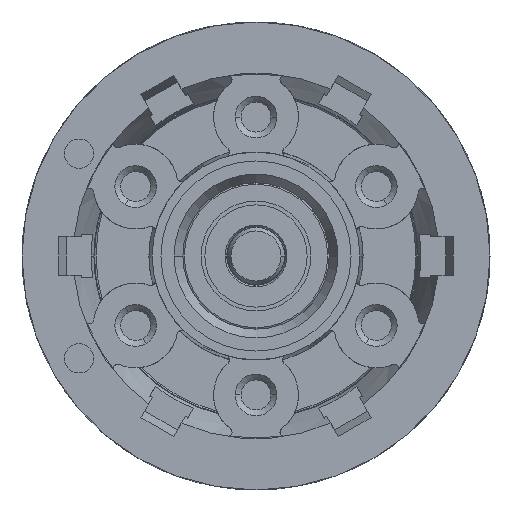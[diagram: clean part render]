
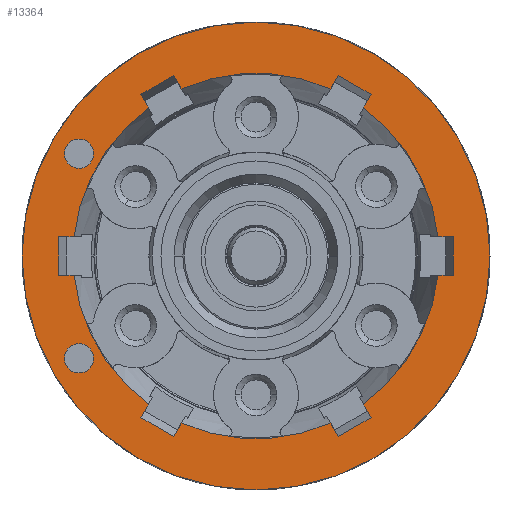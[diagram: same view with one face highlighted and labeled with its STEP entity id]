
A CAD part, left-side view. The second image highlights one B-rep face of the part: STEP entity #13364.
In plain terms, the highlighted planar face has unit normal (-1, 0, 0).
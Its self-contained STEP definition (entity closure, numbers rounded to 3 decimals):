
#1396=CARTESIAN_POINT('',(-1.9,0.,0.));
#1397=DIRECTION('',(-1.,0.,0.));
#1398=DIRECTION('',(0.,1.,0.));
#1399=AXIS2_PLACEMENT_3D('',#1396,#1397,#1398);
#1404=CARTESIAN_POINT('',(-1.9,0.,0.));
#1405=DIRECTION('',(1.,0.,0.));
#1406=DIRECTION('',(0.,1.,0.));
#1407=AXIS2_PLACEMENT_3D('',#1404,#1405,#1406);
#1412=DIRECTION('',(0.,-0.866,0.5));
#1413=VECTOR('',#1412,2.6);
#1414=CARTESIAN_POINT('',(-1.9,7.876,11.041));
#1415=LINE('',#1414,#1413);
#1419=DIRECTION('',(0.,-0.5,-0.866));
#1420=VECTOR('',#1419,1.068);
#1421=CARTESIAN_POINT('',(-1.9,7.876,11.041));
#1422=LINE('',#1421,#1420);
#1426=CARTESIAN_POINT('',(-1.9,0.,0.));
#1427=DIRECTION('',(1.,0.,0.));
#1428=DIRECTION('',(0.,0.995,0.104));
#1429=AXIS2_PLACEMENT_3D('',#1426,#1427,#1428);
#1434=DIRECTION('',(0.,1.,0.));
#1435=VECTOR('',#1434,1.068);
#1436=CARTESIAN_POINT('',(-1.9,12.432,1.3));
#1437=LINE('',#1436,#1435);
#1441=DIRECTION('',(0.,0.,1.));
#1442=VECTOR('',#1441,2.6);
#1443=CARTESIAN_POINT('',(-1.9,13.5,-1.3));
#1444=LINE('',#1443,#1442);
#1448=DIRECTION('',(0.,-1.,0.));
#1449=VECTOR('',#1448,1.068);
#1450=CARTESIAN_POINT('',(-1.9,13.5,-1.3));
#1451=LINE('',#1450,#1449);
#1455=CARTESIAN_POINT('',(-1.9,0.,0.));
#1456=DIRECTION('',(1.,0.,0.));
#1457=DIRECTION('',(0.,0.587,-0.809));
#1458=AXIS2_PLACEMENT_3D('',#1455,#1456,#1457);
#1463=DIRECTION('',(0.,0.5,-0.866));
#1464=VECTOR('',#1463,1.068);
#1465=CARTESIAN_POINT('',(-1.9,7.342,-10.117));
#1466=LINE('',#1465,#1464);
#1470=DIRECTION('',(0.,0.866,0.5));
#1471=VECTOR('',#1470,2.6);
#1472=CARTESIAN_POINT('',(-1.9,5.624,-12.341));
#1473=LINE('',#1472,#1471);
#1477=DIRECTION('',(0.,-0.5,0.866));
#1478=VECTOR('',#1477,1.068);
#1479=CARTESIAN_POINT('',(-1.9,5.624,-12.341));
#1480=LINE('',#1479,#1478);
#1484=CARTESIAN_POINT('',(-1.9,0.,0.));
#1485=DIRECTION('',(1.,0.,0.));
#1486=DIRECTION('',(0.,-0.407,-0.913));
#1487=AXIS2_PLACEMENT_3D('',#1484,#1485,#1486);
#1492=DIRECTION('',(0.,-0.5,-0.866));
#1493=VECTOR('',#1492,1.068);
#1494=CARTESIAN_POINT('',(-1.9,-5.09,-11.417));
#1495=LINE('',#1494,#1493);
#1499=DIRECTION('',(0.,0.866,-0.5));
#1500=VECTOR('',#1499,2.6);
#1501=CARTESIAN_POINT('',(-1.9,-7.876,-11.041));
#1502=LINE('',#1501,#1500);
#1506=DIRECTION('',(0.,0.5,0.866));
#1507=VECTOR('',#1506,1.068);
#1508=CARTESIAN_POINT('',(-1.9,-7.876,-11.041));
#1509=LINE('',#1508,#1507);
#1513=CARTESIAN_POINT('',(-1.9,0.,0.));
#1514=DIRECTION('',(1.,0.,0.));
#1515=DIRECTION('',(0.,-0.995,-0.104));
#1516=AXIS2_PLACEMENT_3D('',#1513,#1514,#1515);
#1521=DIRECTION('',(0.,-1.,0.));
#1522=VECTOR('',#1521,1.068);
#1523=CARTESIAN_POINT('',(-1.9,-12.432,-1.3));
#1524=LINE('',#1523,#1522);
#1528=DIRECTION('',(0.,0.,-1.));
#1529=VECTOR('',#1528,2.6);
#1530=CARTESIAN_POINT('',(-1.9,-13.5,1.3));
#1531=LINE('',#1530,#1529);
#1535=DIRECTION('',(0.,1.,0.));
#1536=VECTOR('',#1535,1.068);
#1537=CARTESIAN_POINT('',(-1.9,-13.5,1.3));
#1538=LINE('',#1537,#1536);
#1542=CARTESIAN_POINT('',(-1.9,0.,0.));
#1543=DIRECTION('',(1.,0.,0.));
#1544=DIRECTION('',(0.,-0.587,0.809));
#1545=AXIS2_PLACEMENT_3D('',#1542,#1543,#1544);
#1550=DIRECTION('',(0.,-0.5,0.866));
#1551=VECTOR('',#1550,1.068);
#1552=CARTESIAN_POINT('',(-1.9,-7.342,10.117));
#1553=LINE('',#1552,#1551);
#1557=DIRECTION('',(0.,-0.866,-0.5));
#1558=VECTOR('',#1557,2.6);
#1559=CARTESIAN_POINT('',(-1.9,-5.624,12.341));
#1560=LINE('',#1559,#1558);
#1564=DIRECTION('',(0.,0.5,-0.866));
#1565=VECTOR('',#1564,1.068);
#1566=CARTESIAN_POINT('',(-1.9,-5.624,12.341));
#1567=LINE('',#1566,#1565);
#1571=CARTESIAN_POINT('',(-1.9,0.,0.));
#1572=DIRECTION('',(1.,0.,0.));
#1573=DIRECTION('',(0.,0.407,0.913));
#1574=AXIS2_PLACEMENT_3D('',#1571,#1572,#1573);
#1579=DIRECTION('',(0.,0.5,0.866));
#1580=VECTOR('',#1579,1.068);
#1581=CARTESIAN_POINT('',(-1.9,5.09,11.417));
#1582=LINE('',#1581,#1580);
#1586=CARTESIAN_POINT('',(-1.9,12.1,-7.));
#1587=DIRECTION('',(1.,0.,0.));
#1588=DIRECTION('',(0.,1.,0.));
#1589=AXIS2_PLACEMENT_3D('',#1586,#1587,#1588);
#1594=CARTESIAN_POINT('',(-1.9,12.1,-7.));
#1595=DIRECTION('',(1.,0.,0.));
#1596=DIRECTION('',(0.,-1.,0.));
#1597=AXIS2_PLACEMENT_3D('',#1594,#1595,#1596);
#1602=CARTESIAN_POINT('',(-1.9,12.1,7.));
#1603=DIRECTION('',(-1.,0.,0.));
#1604=DIRECTION('',(0.,1.,0.));
#1605=AXIS2_PLACEMENT_3D('',#1602,#1603,#1604);
#1610=CARTESIAN_POINT('',(-1.9,12.1,7.));
#1611=DIRECTION('',(-1.,0.,0.));
#1612=DIRECTION('',(0.,-1.,0.));
#1613=AXIS2_PLACEMENT_3D('',#1610,#1611,#1612);
#10992=CARTESIAN_POINT('',(-1.9,16.,0.));
#10993=CARTESIAN_POINT('',(-1.9,-16.,0.));
#10994=VERTEX_POINT('',#10992);
#10995=VERTEX_POINT('',#10993);
#11027=CARTESIAN_POINT('',(-1.9,13.5,-1.3));
#11028=CARTESIAN_POINT('',(-1.9,13.5,1.3));
#11029=VERTEX_POINT('',#11027);
#11030=VERTEX_POINT('',#11028);
#11031=CARTESIAN_POINT('',(-1.9,12.432,-1.3));
#11032=VERTEX_POINT('',#11031);
#11033=CARTESIAN_POINT('',(-1.9,12.432,1.3));
#11034=VERTEX_POINT('',#11033);
#11057=CARTESIAN_POINT('',(-1.9,5.624,-12.341));
#11059=VERTEX_POINT('',#11057);
#11061=CARTESIAN_POINT('',(-1.9,7.876,-11.041));
#11063=VERTEX_POINT('',#11061);
#11081=CARTESIAN_POINT('',(-1.9,-7.876,-11.041));
#11083=VERTEX_POINT('',#11081);
#11085=CARTESIAN_POINT('',(-1.9,-5.624,-12.341));
#11087=VERTEX_POINT('',#11085);
#11105=CARTESIAN_POINT('',(-1.9,-13.5,1.3));
#11107=VERTEX_POINT('',#11105);
#11109=CARTESIAN_POINT('',(-1.9,-13.5,-1.3));
#11111=VERTEX_POINT('',#11109);
#11129=CARTESIAN_POINT('',(-1.9,-5.624,12.341));
#11131=VERTEX_POINT('',#11129);
#11133=CARTESIAN_POINT('',(-1.9,-7.876,11.041));
#11135=VERTEX_POINT('',#11133);
#11153=CARTESIAN_POINT('',(-1.9,7.876,11.041));
#11155=VERTEX_POINT('',#11153);
#11157=CARTESIAN_POINT('',(-1.9,5.624,12.341));
#11159=VERTEX_POINT('',#11157);
#11161=CARTESIAN_POINT('',(-1.9,5.09,-11.417));
#11162=VERTEX_POINT('',#11161);
#11163=CARTESIAN_POINT('',(-1.9,7.342,-10.117));
#11164=VERTEX_POINT('',#11163);
#11167=CARTESIAN_POINT('',(-1.9,-7.342,-10.117));
#11168=VERTEX_POINT('',#11167);
#11169=CARTESIAN_POINT('',(-1.9,-5.09,-11.417));
#11170=VERTEX_POINT('',#11169);
#11179=CARTESIAN_POINT('',(-1.9,-12.432,1.3));
#11180=VERTEX_POINT('',#11179);
#11181=CARTESIAN_POINT('',(-1.9,-12.432,-1.3));
#11182=VERTEX_POINT('',#11181);
#11185=CARTESIAN_POINT('',(-1.9,-5.09,11.417));
#11186=VERTEX_POINT('',#11185);
#11187=CARTESIAN_POINT('',(-1.9,-7.342,10.117));
#11188=VERTEX_POINT('',#11187);
#11191=CARTESIAN_POINT('',(-1.9,7.342,10.117));
#11192=VERTEX_POINT('',#11191);
#11193=CARTESIAN_POINT('',(-1.9,5.09,11.417));
#11194=VERTEX_POINT('',#11193);
#11463=CARTESIAN_POINT('',(-1.9,13.1,-7.));
#11464=CARTESIAN_POINT('',(-1.9,11.1,-7.));
#11465=VERTEX_POINT('',#11463);
#11466=VERTEX_POINT('',#11464);
#11471=CARTESIAN_POINT('',(-1.9,13.1,7.));
#11472=VERTEX_POINT('',#11471);
#11473=CARTESIAN_POINT('',(-1.9,11.1,7.));
#11474=VERTEX_POINT('',#11473);
#13299=CARTESIAN_POINT('',(-1.9,0.,0.));
#13300=DIRECTION('',(1.,0.,0.));
#13301=DIRECTION('',(0.,-1.,0.));
#13302=AXIS2_PLACEMENT_3D('',#13299,#13300,#13301);
#13303=PLANE('',#13302);
#13305=ORIENTED_EDGE('',*,*,#13304,.F.);
#13307=ORIENTED_EDGE('',*,*,#13306,.T.);
#13308=EDGE_LOOP('',(#13305,#13307));
#13309=FACE_OUTER_BOUND('',#13308,.F.);
#13311=ORIENTED_EDGE('',*,*,#13310,.F.);
#13313=ORIENTED_EDGE('',*,*,#13312,.T.);
#13314=ORIENTED_EDGE('',*,*,#12980,.F.);
#13316=ORIENTED_EDGE('',*,*,#13315,.T.);
#13318=ORIENTED_EDGE('',*,*,#13317,.F.);
#13320=ORIENTED_EDGE('',*,*,#13319,.T.);
#13321=ORIENTED_EDGE('',*,*,#13117,.F.);
#13323=ORIENTED_EDGE('',*,*,#13322,.T.);
#13325=ORIENTED_EDGE('',*,*,#13324,.F.);
#13327=ORIENTED_EDGE('',*,*,#13326,.T.);
#13328=ORIENTED_EDGE('',*,*,#13101,.F.);
#13330=ORIENTED_EDGE('',*,*,#13329,.T.);
#13332=ORIENTED_EDGE('',*,*,#13331,.F.);
#13334=ORIENTED_EDGE('',*,*,#13333,.T.);
#13335=ORIENTED_EDGE('',*,*,#13085,.F.);
#13337=ORIENTED_EDGE('',*,*,#13336,.T.);
#13338=ORIENTED_EDGE('',*,*,#13284,.F.);
#13339=ORIENTED_EDGE('',*,*,#13266,.T.);
#13340=ORIENTED_EDGE('',*,*,#13012,.F.);
#13342=ORIENTED_EDGE('',*,*,#13341,.T.);
#13344=ORIENTED_EDGE('',*,*,#13343,.F.);
#13346=ORIENTED_EDGE('',*,*,#13345,.T.);
#13347=ORIENTED_EDGE('',*,*,#12996,.F.);
#13349=ORIENTED_EDGE('',*,*,#13348,.T.);
#13350=EDGE_LOOP('',(#13311,#13313,#13314,#13316,#13318,#13320,#13321,#13323,
#13325,#13327,#13328,#13330,#13332,#13334,#13335,#13337,#13338,#13339,#13340,
#13342,#13344,#13346,#13347,#13349));
#13351=FACE_BOUND('',#13350,.F.);
#13353=ORIENTED_EDGE('',*,*,#13352,.F.);
#13355=ORIENTED_EDGE('',*,*,#13354,.F.);
#13356=EDGE_LOOP('',(#13353,#13355));
#13357=FACE_BOUND('',#13356,.F.);
#13359=ORIENTED_EDGE('',*,*,#13358,.T.);
#13361=ORIENTED_EDGE('',*,*,#13360,.T.);
#13362=EDGE_LOOP('',(#13359,#13361));
#13363=FACE_BOUND('',#13362,.F.);
#13364=ADVANCED_FACE('',(#13309,#13351,#13357,#13363),#13303,.F.);
#1400=CIRCLE('',#1399,16.);
#1408=CIRCLE('',#1407,16.);
#1430=CIRCLE('',#1429,12.5);
#1459=CIRCLE('',#1458,12.5);
#1488=CIRCLE('',#1487,12.5);
#1517=CIRCLE('',#1516,12.5);
#1546=CIRCLE('',#1545,12.5);
#1575=CIRCLE('',#1574,12.5);
#1590=CIRCLE('',#1589,1.);
#1598=CIRCLE('',#1597,1.);
#1606=CIRCLE('',#1605,1.);
#1614=CIRCLE('',#1613,1.);
#12980=EDGE_CURVE('',#11034,#11192,#1430,.T.);
#12996=EDGE_CURVE('',#11194,#11186,#1575,.T.);
#13012=EDGE_CURVE('',#11188,#11180,#1546,.T.);
#13085=EDGE_CURVE('',#11182,#11168,#1517,.T.);
#13101=EDGE_CURVE('',#11170,#11162,#1488,.T.);
#13117=EDGE_CURVE('',#11164,#11032,#1459,.T.);
#13266=EDGE_CURVE('',#11107,#11180,#1538,.T.);
#13284=EDGE_CURVE('',#11107,#11111,#1531,.T.);
#13304=EDGE_CURVE('',#10994,#10995,#1400,.T.);
#13306=EDGE_CURVE('',#10994,#10995,#1408,.T.);
#13310=EDGE_CURVE('',#11155,#11159,#1415,.T.);
#13312=EDGE_CURVE('',#11155,#11192,#1422,.T.);
#13315=EDGE_CURVE('',#11034,#11030,#1437,.T.);
#13317=EDGE_CURVE('',#11029,#11030,#1444,.T.);
#13319=EDGE_CURVE('',#11029,#11032,#1451,.T.);
#13322=EDGE_CURVE('',#11164,#11063,#1466,.T.);
#13324=EDGE_CURVE('',#11059,#11063,#1473,.T.);
#13326=EDGE_CURVE('',#11059,#11162,#1480,.T.);
#13329=EDGE_CURVE('',#11170,#11087,#1495,.T.);
#13331=EDGE_CURVE('',#11083,#11087,#1502,.T.);
#13333=EDGE_CURVE('',#11083,#11168,#1509,.T.);
#13336=EDGE_CURVE('',#11182,#11111,#1524,.T.);
#13341=EDGE_CURVE('',#11188,#11135,#1553,.T.);
#13343=EDGE_CURVE('',#11131,#11135,#1560,.T.);
#13345=EDGE_CURVE('',#11131,#11186,#1567,.T.);
#13348=EDGE_CURVE('',#11194,#11159,#1582,.T.);
#13352=EDGE_CURVE('',#11465,#11466,#1590,.T.);
#13354=EDGE_CURVE('',#11466,#11465,#1598,.T.);
#13358=EDGE_CURVE('',#11472,#11474,#1606,.T.);
#13360=EDGE_CURVE('',#11474,#11472,#1614,.T.);
